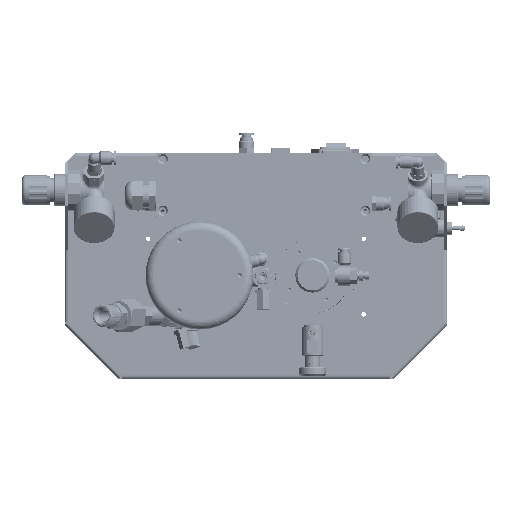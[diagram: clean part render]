
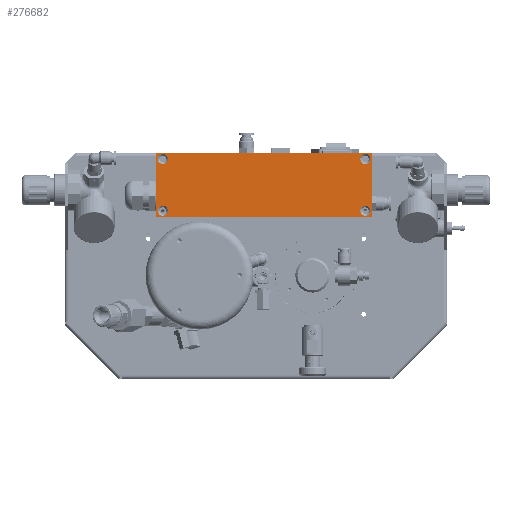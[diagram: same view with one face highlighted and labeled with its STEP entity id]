
A CAD part, top view. The second image highlights one B-rep face of the part: STEP entity #276682.
In plain terms, the highlighted planar face has unit normal (0, 0, 1).
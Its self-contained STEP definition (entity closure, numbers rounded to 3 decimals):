
#276527=CARTESIAN_POINT('',(0.0,-30.0,1.6));
#276528=DIRECTION('',(0.0,0.0,1.0));
#276529=DIRECTION('',(1.0,0.0,0.0));
#276530=AXIS2_PLACEMENT_3D('',#276527,#276528,#276529);
#276531=PLANE('',#276530);
#276532=CARTESIAN_POINT('',(-100.0,28.8,1.6));
#276533=VERTEX_POINT('',#276532);
#276534=CARTESIAN_POINT('',(-100.0,-28.8,1.6));
#276535=VERTEX_POINT('',#276534);
#276536=CARTESIAN_POINT('',(-100.0,28.8,1.6));
#276537=DIRECTION('',(0.0,-1.0,0.0));
#276538=VECTOR('',#276537,57.6);
#276539=LINE('',#276536,#276538);
#276540=EDGE_CURVE('',#276533,#276535,#276539,.T.);
#276541=ORIENTED_EDGE('',*,*,#276540,.T.);
#276542=CARTESIAN_POINT('',(-98.8,-30.0,1.6));
#276543=VERTEX_POINT('',#276542);
#276544=CARTESIAN_POINT('',(-98.8,-28.8,1.6));
#276545=DIRECTION('',(0.0,0.0,1.0));
#276546=DIRECTION('',(1.0,0.0,0.0));
#276547=AXIS2_PLACEMENT_3D('',#276544,#276545,#276546);
#276548=CIRCLE('',#276547,1.2);
#276549=EDGE_CURVE('',#276535,#276543,#276548,.T.);
#276550=ORIENTED_EDGE('',*,*,#276549,.T.);
#276551=CARTESIAN_POINT('',(98.8,-30.0,1.6));
#276552=VERTEX_POINT('',#276551);
#276553=CARTESIAN_POINT('',(-98.8,-30.0,1.6));
#276554=DIRECTION('',(1.0,0.0,0.0));
#276555=VECTOR('',#276554,197.6);
#276556=LINE('',#276553,#276555);
#276557=EDGE_CURVE('',#276543,#276552,#276556,.T.);
#276558=ORIENTED_EDGE('',*,*,#276557,.T.);
#276559=CARTESIAN_POINT('',(100.0,-28.8,1.6));
#276560=VERTEX_POINT('',#276559);
#276561=CARTESIAN_POINT('',(98.8,-28.8,1.6));
#276562=DIRECTION('',(0.0,0.0,1.0));
#276563=DIRECTION('',(1.0,0.0,0.0));
#276564=AXIS2_PLACEMENT_3D('',#276561,#276562,#276563);
#276565=CIRCLE('',#276564,1.2);
#276566=EDGE_CURVE('',#276552,#276560,#276565,.T.);
#276567=ORIENTED_EDGE('',*,*,#276566,.T.);
#276568=CARTESIAN_POINT('',(100.0,28.8,1.6));
#276569=VERTEX_POINT('',#276568);
#276570=CARTESIAN_POINT('',(100.0,-28.8,1.6));
#276571=DIRECTION('',(0.0,1.0,0.0));
#276572=VECTOR('',#276571,57.6);
#276573=LINE('',#276570,#276572);
#276574=EDGE_CURVE('',#276560,#276569,#276573,.T.);
#276575=ORIENTED_EDGE('',*,*,#276574,.T.);
#276576=CARTESIAN_POINT('',(98.8,30.0,1.6));
#276577=VERTEX_POINT('',#276576);
#276578=CARTESIAN_POINT('',(98.8,28.8,1.6));
#276579=DIRECTION('',(0.0,0.0,1.0));
#276580=DIRECTION('',(1.0,0.0,0.0));
#276581=AXIS2_PLACEMENT_3D('',#276578,#276579,#276580);
#276582=CIRCLE('',#276581,1.2);
#276583=EDGE_CURVE('',#276569,#276577,#276582,.T.);
#276584=ORIENTED_EDGE('',*,*,#276583,.T.);
#276585=CARTESIAN_POINT('',(-98.8,30.0,1.6));
#276586=VERTEX_POINT('',#276585);
#276587=CARTESIAN_POINT('',(98.8,30.0,1.6));
#276588=DIRECTION('',(-1.0,0.0,0.0));
#276589=VECTOR('',#276588,197.6);
#276590=LINE('',#276587,#276589);
#276591=EDGE_CURVE('',#276577,#276586,#276590,.T.);
#276592=ORIENTED_EDGE('',*,*,#276591,.T.);
#276593=CARTESIAN_POINT('',(-98.8,28.8,1.6));
#276594=DIRECTION('',(0.0,0.0,1.0));
#276595=DIRECTION('',(1.0,0.0,0.0));
#276596=AXIS2_PLACEMENT_3D('',#276593,#276594,#276595);
#276597=CIRCLE('',#276596,1.2);
#276598=EDGE_CURVE('',#276586,#276533,#276597,.T.);
#276599=ORIENTED_EDGE('',*,*,#276598,.T.);
#276600=EDGE_LOOP('',(#276541,#276550,#276558,#276567,#276575,#276584,#276592,#276599));
#276601=FACE_OUTER_BOUND('',#276600,.T.);
#276602=CARTESIAN_POINT('',(-98.7,24.,1.6));
#276603=VERTEX_POINT('',#276602);
#276604=CARTESIAN_POINT('',(-89.3,24.,1.6));
#276605=VERTEX_POINT('',#276604);
#276606=CARTESIAN_POINT('',(-94.,24.,1.6));
#276607=DIRECTION('',(0.0,0.0,-1.0));
#276608=DIRECTION('',(-1.0,0.0,0.0));
#276609=AXIS2_PLACEMENT_3D('',#276606,#276607,#276608);
#276610=CIRCLE('',#276609,4.7);
#276611=EDGE_CURVE('',#276603,#276605,#276610,.T.);
#276612=ORIENTED_EDGE('',*,*,#276611,.T.);
#276613=CARTESIAN_POINT('',(-94.0,24.,1.6));
#276614=DIRECTION('',(0.0,0.0,-1.0));
#276615=DIRECTION('',(1.0,0.0,0.0));
#276616=AXIS2_PLACEMENT_3D('',#276613,#276614,#276615);
#276617=CIRCLE('',#276616,4.7);
#276618=EDGE_CURVE('',#276605,#276603,#276617,.T.);
#276619=ORIENTED_EDGE('',*,*,#276618,.T.);
#276620=EDGE_LOOP('',(#276612,#276619));
#276621=FACE_BOUND('',#276620,.T.);
#276622=CARTESIAN_POINT('',(-98.7,-24.,1.6));
#276623=VERTEX_POINT('',#276622);
#276624=CARTESIAN_POINT('',(-89.3,-24.,1.6));
#276625=VERTEX_POINT('',#276624);
#276626=CARTESIAN_POINT('',(-94.,-24.,1.6));
#276627=DIRECTION('',(0.0,0.0,-1.0));
#276628=DIRECTION('',(-1.0,0.0,0.0));
#276629=AXIS2_PLACEMENT_3D('',#276626,#276627,#276628);
#276630=CIRCLE('',#276629,4.7);
#276631=EDGE_CURVE('',#276623,#276625,#276630,.T.);
#276632=ORIENTED_EDGE('',*,*,#276631,.T.);
#276633=CARTESIAN_POINT('',(-94.0,-24.,1.6));
#276634=DIRECTION('',(0.0,0.0,-1.0));
#276635=DIRECTION('',(1.0,0.0,0.0));
#276636=AXIS2_PLACEMENT_3D('',#276633,#276634,#276635);
#276637=CIRCLE('',#276636,4.7);
#276638=EDGE_CURVE('',#276625,#276623,#276637,.T.);
#276639=ORIENTED_EDGE('',*,*,#276638,.T.);
#276640=EDGE_LOOP('',(#276632,#276639));
#276641=FACE_BOUND('',#276640,.T.);
#276642=CARTESIAN_POINT('',(89.3,24.,1.6));
#276643=VERTEX_POINT('',#276642);
#276644=CARTESIAN_POINT('',(98.7,24.,1.6));
#276645=VERTEX_POINT('',#276644);
#276646=CARTESIAN_POINT('',(94.,24.,1.6));
#276647=DIRECTION('',(0.0,0.0,-1.0));
#276648=DIRECTION('',(-1.0,0.0,0.0));
#276649=AXIS2_PLACEMENT_3D('',#276646,#276647,#276648);
#276650=CIRCLE('',#276649,4.7);
#276651=EDGE_CURVE('',#276643,#276645,#276650,.T.);
#276652=ORIENTED_EDGE('',*,*,#276651,.T.);
#276653=CARTESIAN_POINT('',(94.0,24.,1.6));
#276654=DIRECTION('',(0.0,0.0,-1.0));
#276655=DIRECTION('',(1.0,0.0,0.0));
#276656=AXIS2_PLACEMENT_3D('',#276653,#276654,#276655);
#276657=CIRCLE('',#276656,4.7);
#276658=EDGE_CURVE('',#276645,#276643,#276657,.T.);
#276659=ORIENTED_EDGE('',*,*,#276658,.T.);
#276660=EDGE_LOOP('',(#276652,#276659));
#276661=FACE_BOUND('',#276660,.T.);
#276662=CARTESIAN_POINT('',(89.3,-24.,1.6));
#276663=VERTEX_POINT('',#276662);
#276664=CARTESIAN_POINT('',(98.7,-24.,1.6));
#276665=VERTEX_POINT('',#276664);
#276666=CARTESIAN_POINT('',(94.,-24.,1.6));
#276667=DIRECTION('',(0.0,0.0,-1.0));
#276668=DIRECTION('',(-1.0,0.0,0.0));
#276669=AXIS2_PLACEMENT_3D('',#276666,#276667,#276668);
#276670=CIRCLE('',#276669,4.7);
#276671=EDGE_CURVE('',#276663,#276665,#276670,.T.);
#276672=ORIENTED_EDGE('',*,*,#276671,.T.);
#276673=CARTESIAN_POINT('',(94.0,-24.,1.6));
#276674=DIRECTION('',(0.0,0.0,-1.0));
#276675=DIRECTION('',(1.0,0.0,0.0));
#276676=AXIS2_PLACEMENT_3D('',#276673,#276674,#276675);
#276677=CIRCLE('',#276676,4.7);
#276678=EDGE_CURVE('',#276665,#276663,#276677,.T.);
#276679=ORIENTED_EDGE('',*,*,#276678,.T.);
#276680=EDGE_LOOP('',(#276672,#276679));
#276681=FACE_BOUND('',#276680,.T.);
#276682=ADVANCED_FACE('',(#276601,#276621,#276641,#276661,#276681),#276531,.T.);
